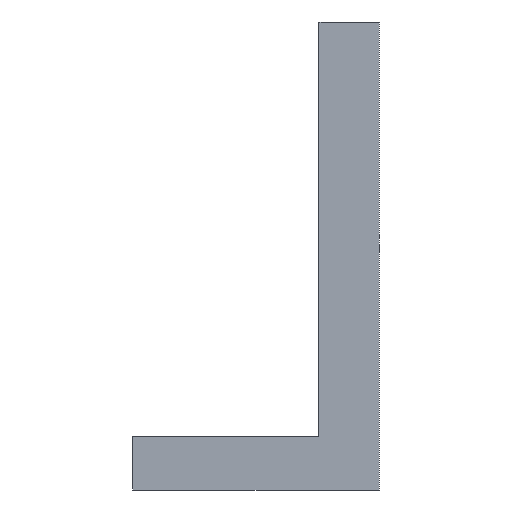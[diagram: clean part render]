
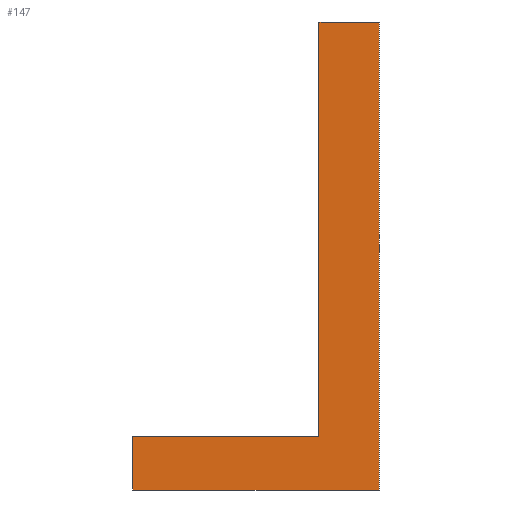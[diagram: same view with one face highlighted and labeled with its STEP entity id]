
A CAD part, left-side view. The second image highlights one B-rep face of the part: STEP entity #147.
In plain terms, the highlighted planar face has unit normal (-1, 0, 0).
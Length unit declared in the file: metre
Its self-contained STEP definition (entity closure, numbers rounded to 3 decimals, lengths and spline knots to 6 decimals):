
#12=ORIENTED_EDGE('',*,*,#48,.F.);
#13=ORIENTED_EDGE('',*,*,#49,.F.);
#14=ORIENTED_EDGE('',*,*,#50,.F.);
#15=ORIENTED_EDGE('',*,*,#51,.F.);
#16=ORIENTED_EDGE('',*,*,#52,.F.);
#17=ORIENTED_EDGE('',*,*,#53,.F.);
#48=EDGE_CURVE('',#66,#67,#78,.T.);
#49=EDGE_CURVE('',#68,#66,#79,.T.);
#50=EDGE_CURVE('',#69,#68,#80,.T.);
#51=EDGE_CURVE('',#70,#69,#81,.T.);
#52=EDGE_CURVE('',#71,#70,#82,.T.);
#53=EDGE_CURVE('',#67,#71,#83,.T.);
#66=VERTEX_POINT('',#263);
#67=VERTEX_POINT('',#264);
#68=VERTEX_POINT('',#266);
#69=VERTEX_POINT('',#268);
#70=VERTEX_POINT('',#270);
#71=VERTEX_POINT('',#272);
#78=LINE('',#262,#96);
#79=LINE('',#265,#97);
#80=LINE('',#267,#98);
#81=LINE('',#269,#99);
#82=LINE('',#271,#100);
#83=LINE('',#273,#101);
#96=VECTOR('',#228,1.);
#97=VECTOR('',#229,1.);
#98=VECTOR('',#230,1.);
#99=VECTOR('',#231,1.);
#100=VECTOR('',#232,1.);
#101=VECTOR('',#233,1.);
#114=EDGE_LOOP('',(#12,#13,#14,#15,#16,#17));
#122=FACE_BOUND('',#114,.T.);
#130=PLANE('',#216);
#147=ADVANCED_FACE('',(#122),#130,.T.);
#216=AXIS2_PLACEMENT_3D('',#261,#226,#227);
#226=DIRECTION('',(-1.,0.,0.));
#227=DIRECTION('',(0.,0.,1.));
#228=DIRECTION('',(0.,0.,1.));
#229=DIRECTION('',(0.,1.,0.));
#230=DIRECTION('',(0.,0.,-1.));
#231=DIRECTION('',(0.,-1.,0.));
#232=DIRECTION('',(0.,0.,1.));
#233=DIRECTION('',(0.,-1.,0.));
#261=CARTESIAN_POINT('',(-0.056786,-0.006593,0.0092));
#262=CARTESIAN_POINT('',(-0.056786,-0.012186,0.013559));
#263=CARTESIAN_POINT('',(-0.056786,-0.012186,0.013513));
#264=CARTESIAN_POINT('',(-0.056786,-0.012186,0.013559));
#265=CARTESIAN_POINT('',(-0.056786,-0.012186,0.013513));
#266=CARTESIAN_POINT('',(-0.056786,-0.012401,0.013513));
#267=CARTESIAN_POINT('',(-0.056786,-0.012401,0.013513));
#268=CARTESIAN_POINT('',(-0.056786,-0.012401,0.013919));
#269=CARTESIAN_POINT('',(-0.056786,-0.012401,0.013919));
#270=CARTESIAN_POINT('',(-0.056786,-0.012348,0.013919));
#271=CARTESIAN_POINT('',(-0.056786,-0.012348,0.013919));
#272=CARTESIAN_POINT('',(-0.056786,-0.012348,0.013559));
#273=CARTESIAN_POINT('',(-0.056786,-0.012348,0.013559));
